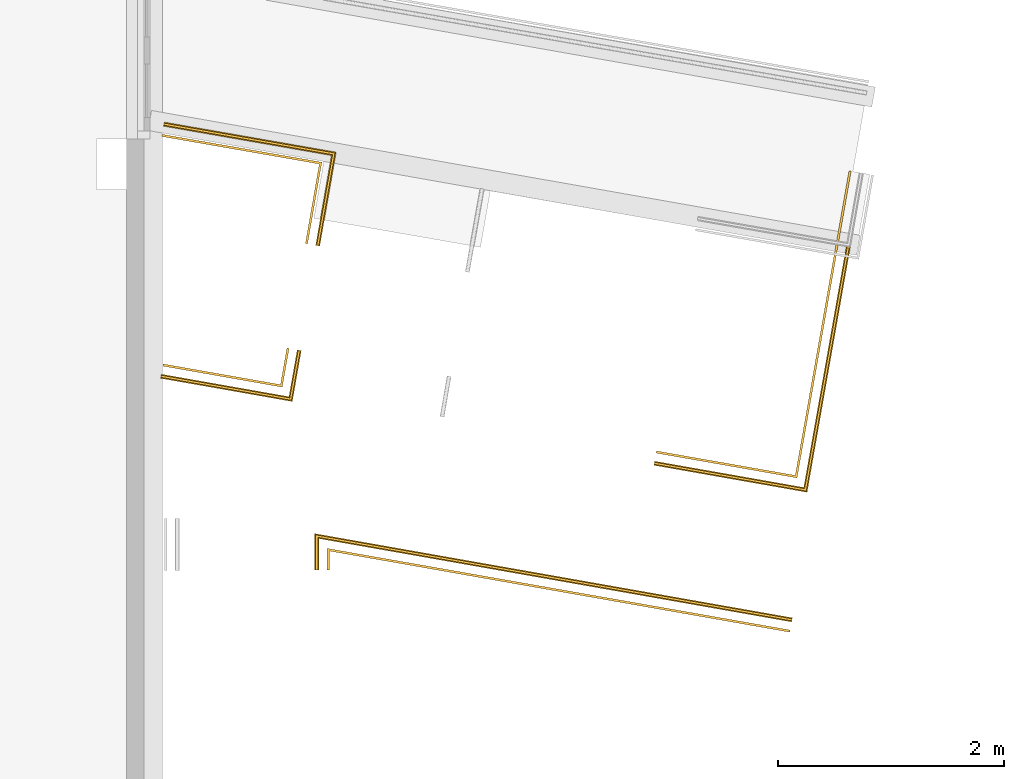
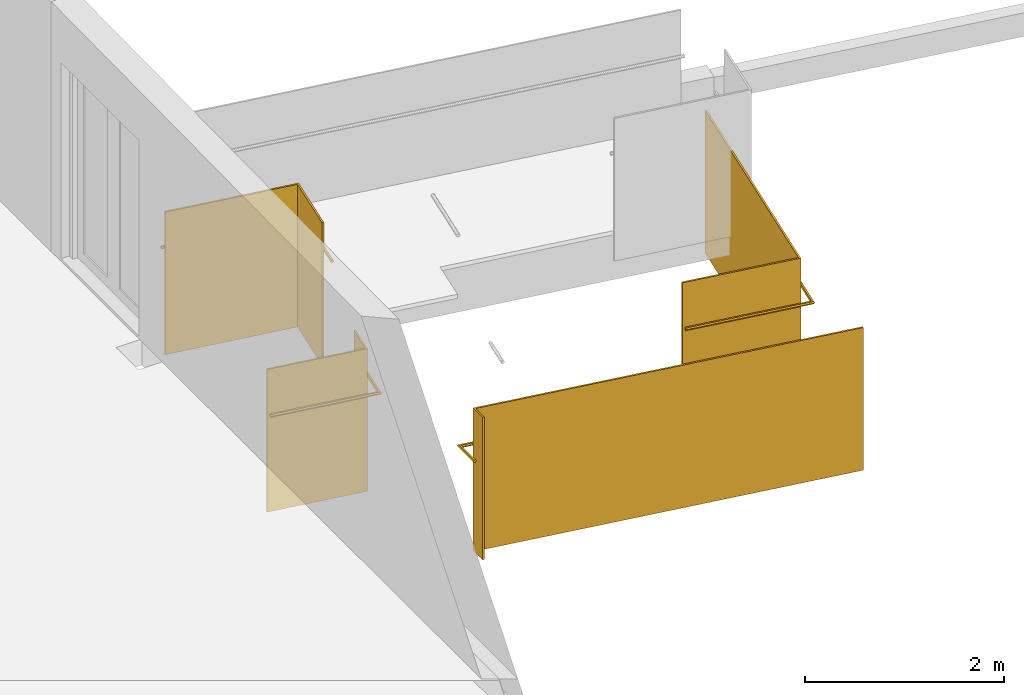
# One storey, part 6 of 9: 4 railings.
"""IFC2X3 building model written with IfcOpenShell, lengths in millimetres."""

import ifcopenshell
import ifcopenshell.guid

model = None  # the IFC model being written
_history = None  # IfcOwnerHistory: only IFC2X3 demands one
_inside = {}  # id of a spatial element -> (the spatial element, [elements in it])
_under = {}  # id of a project, library or spatial element -> (it, [spatial elements below it])
_declared = {}  # id of a project -> (the project, [libraries it declares])
_typed = {}  # id of a type object -> (the type object, [elements of that type])
_made_of = {}  # id of a material, layer set ... -> (it, [elements and type objects made of it])


def new_model(schema):
    """Start an empty IFC model of exactly this schema.

    Asked for "IFC4X3", IfcOpenShell would pick the latest addendum, in which some entities
    have other attributes; the version numbers below select the first issue.
    IFC2X3 requires an IfcOwnerHistory on every rooted entity: one is made here for all.
    """
    global model, _history
    if schema == "IFC4X3":
        model = ifcopenshell.file(schema_version=(4, 3, 0, 0))
    else:
        model = ifcopenshell.file(schema=schema)
    _inside.clear()
    _under.clear()
    _declared.clear()
    _typed.clear()
    _made_of.clear()
    _history = None
    if model.schema == "IFC2X3":
        org = make("IfcOrganization", Name="unknown")
        user = make(
            "IfcPersonAndOrganization",
            ThePerson=make("IfcPerson", FamilyName="unknown"),
            TheOrganization=org,
        )
        app = make(
            "IfcApplication",
            ApplicationDeveloper=org,
            Version="unknown",
            ApplicationFullName="unknown",
            ApplicationIdentifier="unknown",
        )
        _history = make(
            "IfcOwnerHistory",
            OwningUser=user,
            OwningApplication=app,
            ChangeAction="ADDED",
            CreationDate=0,
        )
    return model


def make(cls, **values):
    """One entity of the class cls with the attributes given. An attribute that is None is left unset."""
    return model.create_entity(
        cls, **{name: value for name, value in values.items() if value is not None}
    )


def entity(cls, *values):
    """Any entity or typed value of the class cls, its attributes in the order of the schema. None: left unset."""
    e = model.create_entity(cls)
    for i, value in enumerate(values):
        if value is not None:
            e[i] = value
    return e


def rooted(cls, **values):
    """An entity with a GlobalId (a new one), such as an element, a storey or a relation."""
    return make(cls, GlobalId=ifcopenshell.guid.new(), OwnerHistory=_history, **values)


def si_unit(unit_type, name, prefix=None):
    """IfcSIUnit, for example si_unit("LENGTHUNIT", "METRE", prefix="MILLI")."""
    return make("IfcSIUnit", UnitType=unit_type, Prefix=prefix, Name=name)


def converted_unit(unit_type, name, factor, base, dimensions=None, offset=None):
    """IfcConversionBasedUnit, such as the inch: factor (a typed value) times the base unit."""
    return make(
        "IfcConversionBasedUnit"
        if offset is None
        else "IfcConversionBasedUnitWithOffset",
        ConversionOffset=offset,
        Dimensions=None
        if dimensions is None
        else entity("IfcDimensionalExponents", *dimensions),
        UnitType=unit_type,
        Name=name,
        ConversionFactor=make(
            "IfcMeasureWithUnit", ValueComponent=factor, UnitComponent=base
        ),
    )


def derived_unit(unit_type, elements):
    """IfcDerivedUnit: a product of units, each with its exponent."""
    return make(
        "IfcDerivedUnit",
        Elements=[
            make("IfcDerivedUnitElement", Unit=unit, Exponent=power)
            for unit, power in elements
        ],
        UnitType=unit_type,
    )


def assignment(units):
    """IfcUnitAssignment: the units of a project."""
    return None if units is None else make("IfcUnitAssignment", Units=units)


def point(xyz):
    """IfcCartesianPoint."""
    return None if xyz is None else make("IfcCartesianPoint", Coordinates=xyz)


def direction(xyz):
    """IfcDirection."""
    return None if xyz is None else make("IfcDirection", DirectionRatios=xyz)


def frame(location, z_axis=None, x_axis=None):
    """IfcAxis2Placement3D, a coordinate frame: its origin and axes. An axis left out is left unset."""
    return make(
        "IfcAxis2Placement3D",
        Location=point(location),
        Axis=direction(z_axis),
        RefDirection=direction(x_axis),
    )


def origin():
    """The frame at (0, 0, 0) with its axes left unset."""
    return frame((0.0, 0.0, 0.0))


def place(relative_to, where):
    """IfcLocalPlacement: puts the frame where relative to a parent placement (None: the world)."""
    return make(
        "IfcLocalPlacement", PlacementRelTo=relative_to, RelativePlacement=where
    )


def context(
    kind, dimensions, precision=None, world=None, true_north=None, identifier=None
):
    """IfcGeometricRepresentationContext, for example the 3D "Model" context."""
    return make(
        "IfcGeometricRepresentationContext",
        ContextIdentifier=identifier,
        ContextType=kind,
        CoordinateSpaceDimension=dimensions,
        Precision=precision,
        WorldCoordinateSystem=world,
        TrueNorth=true_north,
    )


def subcontext(parent, identifier, kind, view, scale=None):
    """IfcGeometricRepresentationSubContext, for example "Body" below "Model"."""
    return make(
        "IfcGeometricRepresentationSubContext",
        ContextIdentifier=identifier,
        ContextType=kind,
        ParentContext=parent,
        TargetScale=scale,
        TargetView=view,
    )


def project(units=None, contexts=None):
    """IfcProject with its units and contexts."""
    return rooted(
        "IfcProject",
        Name="project",
        RepresentationContexts=contexts,
        UnitsInContext=assignment(units),
    )


def spatial(cls, under=None, at=None, **own):
    """A site, building, storey or space (cls), placed at a placement, below another one or the project."""
    s = rooted(cls, ObjectPlacement=at, **own)
    if under is not None:
        _under.setdefault(under.id(), (under, []))[1].append(s)
    return s


def faces_of(points, faces, orient=None, outer=None):
    """IfcFace entities. A face is a list of loops; a loop is a list of indices into points, from 0.

    orient and outer hold one flag for each loop. By default every Orientation is true, the
    first loop of a face is its IfcFaceOuterBound and the others are IfcFaceBound.
    """
    made = []
    for i, loops in enumerate(faces):
        bounds = []
        for j, loop in enumerate(loops):
            is_outer = j == 0 if outer is None else outer[i][j]
            bounds.append(
                make(
                    "IfcFaceOuterBound" if is_outer else "IfcFaceBound",
                    Bound=make("IfcPolyLoop", Polygon=[points[k] for k in loop]),
                    Orientation=True if orient is None else orient[i][j],
                )
            )
        made.append(make("IfcFace", Bounds=bounds))
    return made


def faceted_brep(points, faces, orient=None, outer=None, voids=None):
    """IfcFacetedBrep: a solid bounded by flat faces; with voids (closed shells), ...WithVoids."""
    shared = [point(p) for p in points]
    hull = make("IfcClosedShell", CfsFaces=faces_of(shared, faces, orient, outer))
    if voids is None:
        return make("IfcFacetedBrep", Outer=hull)
    return make(
        "IfcFacetedBrepWithVoids",
        Outer=hull,
        Voids=[
            make(cls, CfsFaces=faces_of(shared, fs, o, b)) for cls, fs, o, b in voids
        ],
    )


def shape(context_of_items, identifier, shape_type, items):
    """IfcShapeRepresentation: the items that make up one representation, for example the "Body"."""
    return make(
        "IfcShapeRepresentation",
        ContextOfItems=context_of_items,
        RepresentationIdentifier=identifier,
        RepresentationType=shape_type,
        Items=items,
    )


def material(Name=None, Category=None):
    """IfcMaterial."""
    return make("IfcMaterial", Name=Name, Category=Category)


def made_of(thing, what):
    """Note that an element or type object is made of a material, layer set ...; save() writes the relation."""
    if what is not None:
        _made_of.setdefault(what.id(), (what, []))[1].append(thing)
    return thing


def element(
    cls,
    number,
    at=None,
    inside=None,
    cuts=None,
    type_object=None,
    material=None,
    context=None,
    identifier="Body",
    shape_type=None,
    held_by="IfcProductDefinitionShape",
    body=None,
    shapes=None,
    **own,
):
    """One element of the class cls, such as IfcWall. Its Tag is "e" and its number.

    at: its placement. inside: the storey or other place that contains it. cuts: it is an
    opening in that element (IfcRelVoidsElement). A single representation is given by context,
    identifier, shape_type and body (its items); several are given by shapes. held_by: the class
    of the entity that holds the representations. save() writes the other relations.
    """
    e = rooted(cls, Tag="e%d" % number, ObjectPlacement=at, **own)
    if body is not None:
        shapes = [shape(context, identifier, shape_type, body)]
    if shapes is not None:
        e.Representation = make(held_by, Representations=shapes)
    if inside is not None:
        _inside.setdefault(inside.id(), (inside, []))[1].append(e)
    if cuts is not None:
        rooted(
            "IfcRelVoidsElement", RelatingBuildingElement=cuts, RelatedOpeningElement=e
        )
    if type_object is not None:
        _typed.setdefault(type_object.id(), (type_object, []))[1].append(e)
    return made_of(e, material)


def aggregate(whole, parts):
    """IfcRelAggregates: a whole, such as a stair, and the parts it consists of."""
    return rooted("IfcRelAggregates", RelatingObject=whole, RelatedObjects=parts)


def save(model, path):
    """Write the relations noted so far, then the file.

    IfcRelAggregates (storeys below a building ...), IfcRelContainedInSpatialStructure (elements
    in a storey), IfcRelDefinesByType, IfcRelAssociatesMaterial and IfcRelDeclares: one each for
    every whole, place, type object, material and project.
    """
    for whole, parts in _under.values():
        aggregate(whole, parts)
    for where, things in _inside.values():
        rooted(
            "IfcRelContainedInSpatialStructure",
            RelatedElements=things,
            RelatingStructure=where,
        )
    for kind, things in _typed.values():
        rooted("IfcRelDefinesByType", RelatedObjects=things, RelatingType=kind)
    for what, things in _made_of.values():
        rooted("IfcRelAssociatesMaterial", RelatedObjects=things, RelatingMaterial=what)
    for by, libraries in _declared.values():
        rooted("IfcRelDeclares", RelatingContext=by, RelatedDefinitions=libraries)
    model.write(path)


model = new_model("IFC2X3")

# Units and contexts
model_context = context("Model", 3, precision=0.01, world=origin(), true_north=direction((6.12303176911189e-17, 1.0)))
body_context = subcontext(model_context, "Body", "Model", "MODEL_VIEW")
ifc_project = project(units=[si_unit("LENGTHUNIT", "METRE", prefix="MILLI"), si_unit("AREAUNIT", "SQUARE_METRE"), si_unit("VOLUMEUNIT", "CUBIC_METRE"), converted_unit("PLANEANGLEUNIT", "DEGREE", entity("IfcRatioMeasure", 0.0174532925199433), si_unit("PLANEANGLEUNIT", "RADIAN"), dimensions=[0, 0, 0, 0, 0, 0, 0]), si_unit("MASSUNIT", "GRAM", prefix="KILO"), derived_unit("MASSDENSITYUNIT", [(si_unit("MASSUNIT", "GRAM", prefix="KILO"), 1), (si_unit("LENGTHUNIT", "METRE"), -3)]), si_unit("TIMEUNIT", "SECOND"), si_unit("FREQUENCYUNIT", "HERTZ"), si_unit("THERMODYNAMICTEMPERATUREUNIT", "DEGREE_CELSIUS"), derived_unit("THERMALTRANSMITTANCEUNIT", [(si_unit("MASSUNIT", "GRAM", prefix="KILO"), 1), (si_unit("THERMODYNAMICTEMPERATUREUNIT", "KELVIN"), -1), (si_unit("TIMEUNIT", "SECOND"), -3)]), derived_unit("VOLUMETRICFLOWRATEUNIT", [(si_unit("LENGTHUNIT", "METRE"), 3), (si_unit("TIMEUNIT", "SECOND"), -1)]), si_unit("ELECTRICCURRENTUNIT", "AMPERE"), si_unit("ELECTRICVOLTAGEUNIT", "VOLT"), si_unit("POWERUNIT", "WATT"), si_unit("FORCEUNIT", "NEWTON", prefix="KILO"), si_unit("ILLUMINANCEUNIT", "LUX"), si_unit("LUMINOUSFLUXUNIT", "LUMEN"), si_unit("LUMINOUSINTENSITYUNIT", "CANDELA"), derived_unit("USERDEFINED", [(si_unit("MASSUNIT", "GRAM", prefix="KILO"), -1), (si_unit("LENGTHUNIT", "METRE"), -2), (si_unit("TIMEUNIT", "SECOND"), 3), (si_unit("LUMINOUSFLUXUNIT", "LUMEN"), 1)]), derived_unit("LINEARVELOCITYUNIT", [(si_unit("LENGTHUNIT", "METRE"), 1), (si_unit("TIMEUNIT", "SECOND"), -1)]), si_unit("PRESSUREUNIT", "PASCAL"), derived_unit("USERDEFINED", [(si_unit("LENGTHUNIT", "METRE"), -2), (si_unit("MASSUNIT", "GRAM", prefix="KILO"), 1), (si_unit("TIMEUNIT", "SECOND"), -2)])], contexts=[model_context])

# Site, building, storey
site_placement = place(None, origin())
site = spatial("IfcSite", under=ifc_project, at=site_placement, Name="<Kadaster Gemeente>;<Kadaster nummer>;<Kadaster sectie>", CompositionType="ELEMENT")
building_placement = place(site_placement, origin())
building = spatial("IfcBuilding", under=site, at=building_placement, Name="JRCZ Middelburg", CompositionType="ELEMENT")
storey_placement = place(building_placement, frame((0.0, 0.0, 3700.0)))
storey = spatial("IfcBuildingStorey", under=building, at=storey_placement, Name="02 tweede verdieping", CompositionType="ELEMENT", Elevation=3700.0)

# Railings
ifc_material = material(Name="Glass_RIPO")
railing_1_placement = place(storey_placement, frame((18716.1547277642, 12841.2649647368, -1050.0)))
element("IfcRailing", 1, at=railing_1_placement, inside=storey, material=ifc_material, Name="Railing:RBM_RA_glasbalustrade", ObjectType="Railing:RBM_RA_glasbalustrade", PredefinedType="NOTDEFINED", context=body_context, shape_type="Brep", body=[
    faceted_brep([(131.845272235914, 550.235828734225, 1750.0), (111.845272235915, 550.235828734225, 1750.0), (111.845272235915, 550.235828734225, 0.0), (131.845272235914, 550.235828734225, 0.0), (131.845272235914, 719.695897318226, 1750.0), (131.845272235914, 719.695897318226, 0.0), (111.845272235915, 723.222436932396, 0.0), (111.845272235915, 723.222436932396, 1750.0)], [[[0, 1, 2, 3]], [[4, 5, 6, 7]], [[1, 0, 4, 7]], [[2, 1, 7, 6]], [[3, 2, 6, 5]], [[0, 3, 5, 4]]]),
    faceted_brep([(111.845272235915, 723.222436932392, 1750.0), (111.845272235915, 743.530969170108, 1750.0), (111.845272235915, 743.530969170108, 0.0), (111.845272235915, 723.222436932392, 0.0), (4213.44353035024, 0.0, 1750.0), (4213.44353035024, 0.0, 0.0), (4216.91649390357, 19.6961550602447, 0.0), (4216.91649390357, 19.6961550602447, 1750.0)], [[[0, 1, 2, 3]], [[4, 5, 6, 7]], [[1, 0, 4, 7]], [[2, 1, 7, 6]], [[3, 2, 6, 5]], [[0, 3, 5, 4]]]),
    faceted_brep([(31.9522307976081, 550.235828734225, 1231.93865882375), (33.7341893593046, 550.235828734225, 1235.02510158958), (36.7147307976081, 550.235828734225, 1240.18755079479), (39.6952722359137, 550.235828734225, 1245.35), (36.7147307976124, 550.235828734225, 1250.5124492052), (34.9327722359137, 550.235828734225, 1253.59889197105), (32.5515222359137, 550.235828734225, 1257.72333795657), (30.1702722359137, 550.235828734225, 1261.84778394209), (25.4077722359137, 550.235828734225, 1261.84778394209), (20.6452722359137, 550.235828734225, 1261.84778394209), (15.8827722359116, 550.235828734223, 1261.84778394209), (11.1202722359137, 550.235828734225, 1261.84778394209), (8.7390222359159, 550.235828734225, 1257.72333795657), (6.35777223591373, 550.235828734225, 1253.59889197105), (3.97652223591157, 550.235828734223, 1249.47444598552), (1.59527223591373, 550.235828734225, 1245.35), (3.97652223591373, 550.235828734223, 1241.22555401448), (6.35777223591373, 550.235828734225, 1237.10110802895), (8.73902223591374, 550.235828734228, 1232.97666204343), (11.1202722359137, 550.235828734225, 1228.85221605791), (15.8827722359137, 550.235828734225, 1228.85221605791), (20.6452722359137, 550.235828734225, 1228.85221605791), (25.4077722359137, 550.235828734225, 1228.85221605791), (30.1702722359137, 550.235828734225, 1228.85221605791), (39.6952722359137, 829.515990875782, 1245.35), (37.3140222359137, 832.353854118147, 1249.47444598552), (34.9327722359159, 835.191717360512, 1253.59889197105), (32.5515222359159, 838.029580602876, 1257.72333795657), (30.1702722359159, 840.867443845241, 1261.84778394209), (15.8827722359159, 857.894623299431, 1261.84778394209), (11.1202722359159, 863.57034978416, 1261.84778394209), (20.6452722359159, 852.218896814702, 1261.84778394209), (4234.40720659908, 118.890915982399, 1261.84778394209), (4233.58020715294, 114.200769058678, 1261.84778394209), (4232.7532077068, 109.510622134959, 1261.84778394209), (25.4077722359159, 846.54317032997, 1261.84778394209), (4231.92620826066, 104.820475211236, 1261.84778394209), (4231.09920881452, 100.130328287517, 1261.84778394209), (9.33811130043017, 865.694246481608, 1258.76099065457), (8.7390222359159, 866.408213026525, 1257.72333795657), (7.55595036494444, 867.818143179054, 1255.67419736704), (6.3577722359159, 869.246076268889, 1253.59889197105), (4.57561130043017, 871.369972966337, 1250.51209868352), (3.39580623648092, 872.776009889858, 1248.46861636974), (1.59527223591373, 874.921802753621, 1245.35), (32.5515222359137, 838.029580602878, 1232.97666204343), (34.9327722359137, 835.191717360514, 1237.10110802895), (36.714933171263, 833.067820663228, 1240.18790131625), (37.3140222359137, 832.353854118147, 1241.22555401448), (30.1702722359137, 840.867443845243, 1228.85221605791), (3.39580623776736, 872.776009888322, 1242.23138362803), (4.57561133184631, 871.369972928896, 1240.18790126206), (5.19634023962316, 870.630217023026, 1239.11276725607), (6.35777223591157, 869.246076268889, 1237.10110802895), (8.15830623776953, 867.100283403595, 1233.98249165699), (8.73902223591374, 866.408213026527, 1232.97666204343), (11.1202722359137, 863.570349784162, 1228.85221605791), (15.8827722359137, 857.894623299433, 1228.85221605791), (4234.40720659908, 118.890915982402, 1228.85221605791), (4233.58020715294, 114.20076905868, 1228.85221605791), (20.6452722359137, 852.218896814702, 1228.85221605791), (4232.7532077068, 109.510622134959, 1228.85221605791), (25.4077722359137, 846.543170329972, 1228.85221605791), (4231.92620826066, 104.82047521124, 1228.85221605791), (4231.09920881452, 100.130328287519, 1228.85221605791), (4229.44520992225, 90.7500344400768, 1245.35), (4229.75786949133, 92.5232149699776, 1242.23138242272), (4230.27220936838, 95.440181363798, 1237.10110802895), (4230.68570909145, 97.7852548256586, 1232.97666204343), (4234.82070632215, 121.235989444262, 1232.97666204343), (4235.23420604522, 123.581062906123, 1237.10110802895), (4235.64770576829, 125.926136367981, 1241.22555401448), (4236.06120549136, 128.271209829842, 1245.35), (4235.64770576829, 125.926136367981, 1249.47444598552), (4235.23420604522, 123.581062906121, 1253.59889197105), (4234.82070632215, 121.23598944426, 1257.72333795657), (4230.58486893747, 97.2133618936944, 1256.71750954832), (4230.07052906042, 94.2963954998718, 1251.58723515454), (4229.75786949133, 92.5232149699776, 1248.46861757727)], [[[0, 1, 2, 3, 4, 5, 6, 7, 8, 9, 10, 11, 12, 13, 14, 15, 16, 17, 18, 19, 20, 21, 22, 23]], [[7, 6, 5, 4, 3, 24, 25, 26, 27, 28]], [[29, 11, 10]], [[30, 11, 29]], [[31, 29, 10]], [[29, 32, 30]], [[32, 29, 33]], [[29, 31, 33]], [[34, 33, 31]], [[9, 31, 10]], [[9, 35, 31]], [[35, 9, 8]], [[8, 28, 35]], [[8, 7, 28]], [[35, 28, 36]], [[28, 37, 36]], [[34, 35, 36]], [[35, 34, 31]], [[11, 30, 38, 39, 40, 41, 42, 43, 44, 15, 14, 13, 12]], [[45, 46, 47, 48, 24, 3, 2, 1, 0, 23, 49]], [[17, 16, 15, 44, 50, 51, 52, 53, 54, 55, 56, 19, 18]], [[19, 57, 20]], [[19, 56, 57]], [[58, 57, 56]], [[57, 58, 59]], [[59, 60, 57]], [[59, 61, 60]], [[60, 61, 62]], [[61, 63, 62]], [[63, 49, 62]], [[64, 49, 63]], [[49, 22, 62]], [[49, 23, 22]], [[22, 21, 62]], [[60, 62, 21]], [[21, 20, 60]], [[60, 20, 57]], [[65, 66, 67, 68, 64, 63, 61, 59, 58, 69, 70, 71, 72, 73, 74, 75, 32, 33, 34, 36, 37, 76, 77, 78]], [[24, 65, 78, 77, 76, 37, 28, 27, 26, 25]], [[72, 44, 43, 42, 41, 40, 39, 38, 30, 32, 75, 74, 73]], [[56, 55, 54, 53, 52, 51, 50, 44, 72, 71, 70, 69, 58]], [[66, 65, 24, 48, 47, 46, 45, 49, 64, 68, 67]]]),
])
railing_2_placement = place(storey_placement, frame((17350.3708967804, 14883.9048724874, -1050.0)))
element("IfcRailing", 2, at=railing_2_placement, inside=storey, material=ifc_material, Name="Railing:RBM_RA_glasbalustrade", ObjectType="Railing:RBM_RA_glasbalustrade", PredefinedType="NOTDEFINED", context=body_context, shape_type="Brep", body=[
    faceted_brep([(1121.30675135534, 476.833817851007, 1750.0), (1141.00349798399, 473.364210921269, 1750.0), (1141.00349798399, 473.364210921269, 0.0), (1121.30675135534, 476.833817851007, 0.0), (1064.17134223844, 152.479589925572, 1750.0), (1080.39811840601, 129.311172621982, 1750.0), (1080.39811840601, 129.311172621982, 0.0), (1064.17134223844, 152.479589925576, 0.0), (24.2045266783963, 335.783405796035, 1750.0), (24.2045266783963, 335.783405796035, 0.0), (20.732856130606, 316.087022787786, 0.0), (20.732856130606, 316.087022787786, 1750.0)], [[[0, 1, 2, 3]], [[1, 0, 4, 5]], [[2, 1, 5, 6]], [[3, 2, 6, 7]], [[0, 3, 7, 4]], [[8, 9, 10, 11]], [[5, 4, 8, 11]], [[6, 5, 11, 10]], [[7, 6, 10, 9]], [[4, 7, 9, 8]]]),
    faceted_brep([(1240.20123819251, 455.890403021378, 1228.85221605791), (1235.51095040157, 456.716603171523, 1228.85221605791), (1230.82066261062, 457.542803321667, 1228.85221605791), (1226.13037481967, 458.369003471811, 1228.85221605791), (1221.44008702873, 459.195203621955, 1228.85221605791), (1218.82343344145, 459.656130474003, 1233.45417093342), (1216.20677985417, 460.117057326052, 1238.05612580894), (1214.1331456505, 460.482330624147, 1241.70306290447), (1212.05951144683, 460.847603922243, 1245.35), (1214.1331456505, 460.48233062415, 1248.99693709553), (1216.74979923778, 460.021403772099, 1253.59889197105), (1219.09494313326, 459.608303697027, 1257.72333795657), (1221.44008702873, 459.195203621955, 1261.84778394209), (1226.13037481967, 458.369003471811, 1261.84778394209), (1230.82066261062, 457.542803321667, 1261.84778394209), (1235.51095040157, 456.71660317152, 1261.84778394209), (1240.20123819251, 455.890403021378, 1261.84778394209), (1242.54638208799, 455.477302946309, 1257.72333795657), (1244.89152598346, 455.064202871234, 1253.59889197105), (1247.23666987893, 454.651102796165, 1249.47444598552), (1249.58181377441, 454.23800272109, 1245.35), (1247.23666987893, 454.651102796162, 1241.22555401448), (1244.89152598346, 455.064202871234, 1237.10110802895), (1242.54638208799, 455.477302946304, 1232.97666204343), (1138.93621343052, 45.7311071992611, 1245.35), (1140.2599725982, 43.8410580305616, 1248.17596877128), (1140.86821396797, 42.9726175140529, 1249.47444598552), (1141.58373176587, 41.9510088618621, 1251.00193754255), (1142.80021450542, 40.2141278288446, 1253.59889197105), (1144.73221504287, 37.4556381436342, 1257.72333795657), (1146.66421558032, 34.6971484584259, 1261.84778394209), (1154.39221773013, 23.6631897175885, 1261.84778394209), (1150.52821665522, 29.1801690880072, 1261.84778394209), (5.72872998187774, 230.961717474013, 1261.84778394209), (6.55542153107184, 235.651918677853, 1261.84778394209), (4.90203843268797, 226.271516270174, 1261.84778394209), (4.07534688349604, 221.581315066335, 1261.84778394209), (1158.25621880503, 18.1462103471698, 1261.84778394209), (3.24865533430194, 216.891113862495, 1261.84778394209), (1162.12021987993, 12.6292309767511, 1261.84778394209), (1164.05222041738, 9.87074129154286, 1257.72333795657), (1164.27593908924, 9.55131816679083, 1257.24574203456), (1165.98422095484, 7.11225160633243, 1253.59889197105), (1166.43165829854, 6.47340535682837, 1252.64370012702), (1167.20070369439, 5.37537057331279, 1251.00193754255), (1168.13994016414, 4.0343387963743, 1248.99685006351), (1168.52446286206, 3.48532140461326, 1248.17596877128), (1169.84822202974, 1.59527223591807, 1245.35), (1168.52446285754, 3.48532141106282, 1242.52403121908), (1168.1399401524, 4.03433881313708, 1241.70314991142), (1167.20070368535, 5.37537058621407, 1239.69806243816), (1165.98422095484, 7.11225160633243, 1237.10110802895), (1165.87694451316, 7.26541976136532, 1236.87209365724), (1164.55318534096, 9.1554689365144, 1234.04612487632), (1164.05222041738, 9.87074129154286, 1232.97666204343), (1162.12021987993, 12.6292309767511, 1228.85221605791), (1146.66421558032, 34.6971484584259, 1228.85221605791), (1144.73221504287, 37.4556381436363, 1232.97666204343), (1142.80021450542, 40.2141278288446, 1237.10110802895), (1140.86821396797, 42.972617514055, 1241.22555401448), (1158.25621880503, 18.146210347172, 1228.85221605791), (1154.39221773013, 23.6631897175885, 1228.85221605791), (4.07534688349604, 221.581315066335, 1228.85221605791), (3.24865533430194, 216.891113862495, 1228.85221605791), (4.90203843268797, 226.271516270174, 1228.85221605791), (1150.52821665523, 29.1801690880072, 1228.85221605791), (5.72872998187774, 230.961717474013, 1228.85221605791), (6.55542153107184, 235.651918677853, 1228.85221605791), (8.20880462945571, 245.03232108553, 1245.35), (7.92558927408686, 243.425510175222, 1242.52402110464), (7.642373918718, 241.818699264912, 1239.69804220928), (7.38211308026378, 240.342119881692, 1237.10110802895), (6.96876730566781, 237.997019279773, 1232.97666204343), (2.83530955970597, 214.546013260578, 1232.97666204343), (2.42196378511, 212.200912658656, 1237.10110802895), (2.0086180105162, 209.855812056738, 1241.22555401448), (1.59527223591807, 207.510711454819, 1245.35), (2.00861801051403, 209.855812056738, 1249.47444598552), (2.42196378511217, 212.200912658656, 1253.59889197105), (2.83530955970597, 214.546013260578, 1257.72333795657), (7.07594320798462, 238.605077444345, 1256.65391558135), (7.35915856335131, 240.211888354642, 1253.82793668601), (7.642373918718, 241.818699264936, 1251.00195779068), (7.92558927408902, 243.425510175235, 1248.17597889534)], [[[0, 1, 2, 3, 4, 5, 6, 7, 8, 9, 10, 11, 12, 13, 14, 15, 16, 17, 18, 19, 20, 21, 22, 23]], [[12, 11, 10, 9, 8, 24, 25, 26, 27, 28, 29, 30]], [[14, 31, 15]], [[14, 32, 31]], [[32, 14, 13]], [[13, 30, 32]], [[13, 12, 30]], [[30, 33, 32]], [[30, 34, 33]], [[33, 35, 32]], [[31, 32, 35]], [[35, 36, 31]], [[31, 36, 37]], [[36, 38, 37]], [[38, 39, 37]], [[39, 16, 37]], [[37, 16, 15]], [[31, 37, 15]], [[17, 16, 39, 40, 41, 42, 43, 44, 45, 46, 47, 20, 19, 18]], [[21, 20, 47, 48, 49, 50, 51, 52, 53, 54, 55, 0, 23, 22]], [[24, 8, 7, 6, 5, 4, 56, 57, 58, 59]], [[60, 0, 55]], [[0, 60, 1]], [[60, 61, 1]], [[62, 61, 60]], [[60, 63, 62]], [[60, 55, 63]], [[61, 62, 64]], [[61, 64, 65]], [[64, 66, 65]], [[66, 56, 65]], [[67, 56, 66]], [[56, 3, 65]], [[4, 3, 56]], [[65, 3, 2]], [[2, 61, 65]], [[2, 1, 61]], [[68, 69, 70, 71, 72, 67, 66, 64, 62, 63, 73, 74, 75, 76, 77, 78, 79, 38, 36, 35, 33, 34, 80, 81, 82, 83]], [[27, 26, 25, 24, 68, 83, 82, 81, 80, 34, 30, 29, 28]], [[77, 76, 47, 46, 45, 44, 43, 42, 41, 40, 39, 38, 79, 78]], [[55, 54, 53, 52, 51, 50, 49, 48, 47, 76, 75, 74, 73, 63]], [[58, 57, 56, 67, 72, 71, 70, 69, 68, 24, 59]]]),
])
railing_3_placement = place(storey_placement, frame((17362.4732024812, 16262.7785891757, -350.0)))
element("IfcRailing", 3, at=railing_3_placement, inside=storey, material=ifc_material, Name="Railing:RBM_RA_glasbalustrade", ObjectType="Railing:RBM_RA_glasbalustrade", PredefinedType="NOTDEFINED", context=body_context, shape_type="Brep", body=[
    faceted_brep([(0.0, 972.385125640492, 1750.0), (3.4438842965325, 992.086386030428, 1750.0), (3.4438842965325, 992.086386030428, 0.0), (0.0, 972.385125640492, 0.0), (1396.07625684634, 728.34362765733, 1750.0), (1419.22140153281, 744.60100375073, 1750.0), (1419.22140153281, 744.601003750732, 0.0), (1396.07625684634, 728.343627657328, 0.0), (1272.95739324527, 24.0235687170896, 1750.0), (1272.95739324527, 24.0235687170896, 0.0), (1292.6586536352, 20.579684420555, 0.0), (1292.6586536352, 20.579684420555, 1750.0)], [[[0, 1, 2, 3]], [[1, 0, 4, 5]], [[2, 1, 5, 6]], [[3, 2, 6, 7]], [[0, 3, 7, 4]], [[8, 9, 10, 11]], [[5, 4, 8, 11]], [[6, 5, 11, 10]], [[7, 6, 10, 9]], [[4, 7, 9, 8]]]),
    faceted_brep([(18.3279217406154, 1077.23277077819, 1261.84778394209), (19.1479966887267, 1081.92413340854, 1261.84778394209), (19.9680716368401, 1086.61549603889, 1261.84778394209), (20.7881465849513, 1091.30685866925, 1261.84778394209), (21.198184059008, 1093.65253998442, 1257.72333795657), (21.6082215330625, 1095.9982212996, 1253.59889197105), (21.9975638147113, 1098.22551264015, 1249.68261282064), (22.4282964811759, 1100.68958392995, 1245.35), (22.0182590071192, 1098.34390261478, 1241.22555401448), (21.6082215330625, 1095.9982212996, 1237.10110802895), (21.1981840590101, 1093.65253998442, 1232.97666204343), (20.7881465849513, 1091.30685866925, 1228.85221605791), (19.9680716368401, 1086.61549603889, 1228.85221605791), (19.1479966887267, 1081.92413340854, 1228.85221605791), (18.3279217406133, 1077.23277077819, 1228.85221605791), (17.507846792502, 1072.54140814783, 1228.85221605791), (17.0978093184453, 1070.19572683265, 1232.97666204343), (16.6877718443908, 1067.85004551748, 1237.10110802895), (16.2984295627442, 1065.62275417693, 1241.01738717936), (15.8676968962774, 1063.15868288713, 1245.35), (16.2984295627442, 1065.62275417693, 1249.68261282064), (16.7291622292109, 1068.08682546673, 1254.01522564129), (17.1185045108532, 1070.31411680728, 1257.93150479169), (17.507846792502, 1072.54140814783, 1261.84778394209), (1530.27469888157, 822.605926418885, 1261.84778394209), (1535.78613646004, 826.477214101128, 1261.84778394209), (1524.76326130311, 818.734638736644, 1261.84778394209), (1391.87912627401, 3.23542213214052, 1261.84778394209), (1387.18776364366, 4.05549708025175, 1261.84778394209), (1382.4964010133, 4.87557202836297, 1261.84778394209), (1519.25182372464, 814.863351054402, 1261.84778394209), (1513.74038614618, 810.992063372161, 1261.84778394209), (1377.80503838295, 5.6956469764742, 1261.84778394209), (1373.1136757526, 6.51572192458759, 1261.84778394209), (1508.22894856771, 807.120775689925, 1253.59889197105), (1510.98466735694, 809.056419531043, 1257.72333795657), (1502.71751098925, 803.249488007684, 1245.35), (1505.47322977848, 805.185131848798, 1249.47444598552), (1505.61230885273, 805.282822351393, 1249.68260370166), (1538.40277617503, 828.315167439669, 1257.9314956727), (1538.54185524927, 828.412857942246, 1257.72333795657), (1541.01941589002, 830.15312077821, 1254.0152074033), (1541.29757403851, 830.348501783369, 1253.59889197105), (1543.9142137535, 832.186455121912, 1249.68260370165), (1544.159106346, 832.358470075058, 1249.31607636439), (1546.80901161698, 834.219789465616, 1245.35), (1513.74038614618, 810.992063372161, 1228.85221605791), (1519.25182372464, 814.863351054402, 1228.85221605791), (1377.80503838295, 5.69564697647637, 1228.85221605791), (1373.1136757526, 6.51572192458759, 1228.85221605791), (1524.76326130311, 818.734638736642, 1228.85221605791), (1530.27469888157, 822.605926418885, 1228.85221605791), (1535.78613646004, 826.477214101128, 1228.8522160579), (1391.87912627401, 3.23542213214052, 1228.85221605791), (1387.18776364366, 4.05549708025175, 1228.85221605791), (1382.4964010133, 4.87557202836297, 1228.85221605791), (1510.98466735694, 809.056419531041, 1232.97666204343), (1508.22894856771, 807.12077568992, 1237.10110802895), (1505.47322977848, 805.185131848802, 1241.22555401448), (1544.1591063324, 832.358470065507, 1241.38392361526), (1543.91421374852, 832.186455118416, 1241.0173962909), (1541.29757403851, 830.348501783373, 1237.10110802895), (1538.54185524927, 828.412857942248, 1232.97666204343), (1401.26185153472, 1.5952722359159, 1245.35), (1398.91617021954, 2.0053097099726, 1249.47444598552), (1396.57048890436, 2.41534718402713, 1253.59889197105), (1394.22480758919, 2.82538465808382, 1257.72333795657), (1370.67794136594, 6.94150115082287, 1257.56499631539), (1368.24220697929, 7.36728037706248, 1253.28220868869), (1365.98657873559, 7.76157609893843, 1249.31610434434), (1363.73095049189, 8.15587182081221, 1245.35), (1365.98657873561, 7.76157609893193, 1241.38389565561), (1368.42231312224, 7.33579687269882, 1237.10110802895), (1370.76799443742, 6.92575939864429, 1232.97666204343), (1394.22480758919, 2.82538465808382, 1232.97666204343), (1396.57048890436, 2.41534718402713, 1237.10110802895), (1398.91617021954, 2.0053097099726, 1241.22555401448)], [[[0, 1, 2, 3, 4, 5, 6, 7, 8, 9, 10, 11, 12, 13, 14, 15, 16, 17, 18, 19, 20, 21, 22, 23]], [[24, 3, 2]], [[25, 3, 24]], [[26, 24, 2]], [[24, 27, 25]], [[27, 24, 28]], [[24, 26, 28]], [[29, 28, 26]], [[1, 26, 2]], [[1, 30, 26]], [[30, 1, 0]], [[0, 31, 30]], [[0, 23, 31]], [[31, 32, 30]], [[33, 32, 31]], [[30, 32, 29]], [[29, 26, 30]], [[34, 35, 31, 23, 22, 21, 20, 19, 36, 37, 38]], [[5, 4, 3, 25, 39, 40, 41, 42, 43, 44, 45, 7, 6]], [[46, 14, 47]], [[46, 15, 14]], [[48, 46, 47]], [[48, 49, 46]], [[13, 47, 14]], [[50, 47, 13]], [[13, 12, 50]], [[50, 12, 51]], [[11, 51, 12]], [[11, 52, 51]], [[52, 53, 51]], [[51, 53, 54]], [[51, 54, 50]], [[55, 50, 54]], [[55, 47, 50]], [[47, 55, 48]], [[36, 19, 18, 17, 16, 15, 46, 56, 57, 58]], [[52, 11, 10, 9, 8, 7, 45, 59, 60, 61, 62]], [[63, 64, 65, 66, 27, 28, 29, 32, 33, 67, 68, 69, 70, 71, 72, 73, 49, 48, 55, 54, 53, 74, 75, 76]], [[68, 67, 33, 31, 35, 34, 38, 37, 36, 70, 69]], [[63, 45, 44, 43, 42, 41, 40, 39, 25, 27, 66, 65, 64]], [[75, 74, 53, 52, 62, 61, 60, 59, 45, 63, 76]], [[70, 36, 58, 57, 56, 46, 49, 73, 72, 71]]]),
])
railing_4_placement = place(storey_placement, frame((21723.5836441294, 14079.3738076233, -1050.0)))
element("IfcRailing", 4, at=railing_4_placement, inside=storey, material=ifc_material, Name="Railing:RBM_RA_glasbalustrade", ObjectType="Railing:RBM_RA_glasbalustrade", PredefinedType="NOTDEFINED", context=body_context, shape_type="Brep", body=[
    faceted_brep([(24.2045266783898, 369.232550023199, 1750.0), (24.2045266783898, 369.232550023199, 0.0), (20.7328561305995, 349.53616701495, 0.0), (20.7328561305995, 349.53616701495, 1750.0), (1270.18899447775, 129.30791117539, 1750.0), (1253.96557498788, 152.475736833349, 1750.0), (1270.18899447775, 129.307911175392, 0.0), (1253.96557498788, 152.475736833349, 0.0), (1729.97255177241, 2852.04545028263, 1750.0), (1749.66870683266, 2848.5724867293, 1750.0), (1749.66870683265, 2848.5724867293, 0.0), (1729.97255177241, 2852.04545028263, 0.0)], [[[0, 1, 2, 3]], [[0, 3, 4, 5]], [[3, 2, 6, 4]], [[2, 1, 7, 6]], [[1, 0, 5, 7]], [[8, 9, 10, 11]], [[7, 5, 8, 11]], [[6, 7, 11, 10]], [[4, 6, 10, 9]], [[5, 4, 9, 8]]]),
    faceted_brep([(8.20880462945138, 278.481465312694, 1245.35), (7.72152774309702, 275.716919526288, 1240.48785474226), (7.23425085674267, 272.952373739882, 1235.62570948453), (6.89483619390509, 271.026718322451, 1232.23896277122), (6.55542153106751, 269.101062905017, 1228.85221605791), (5.72872998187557, 264.410861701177, 1228.85221605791), (4.90203843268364, 259.720660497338, 1228.85221605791), (4.0753468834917, 255.030459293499, 1228.85221605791), (3.24865533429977, 250.340258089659, 1228.85221605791), (2.83530955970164, 247.995157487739, 1232.97666204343), (2.42196378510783, 245.65005688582, 1237.10110802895), (2.08254912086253, 243.724401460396, 1240.48785475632), (1.5952722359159, 240.959855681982, 1245.35), (2.00861801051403, 243.3049562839, 1249.47444598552), (2.42196378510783, 245.65005688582, 1253.59889197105), (2.83530955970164, 247.995157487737, 1257.72333795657), (3.24865533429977, 250.340258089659, 1261.84778394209), (4.0753468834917, 255.030459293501, 1261.84778394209), (4.90203843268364, 259.720660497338, 1261.84778394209), (5.72872998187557, 264.410861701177, 1261.84778394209), (6.55542153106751, 269.101062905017, 1261.84778394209), (6.96876730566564, 271.446163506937, 1257.72333795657), (7.38211308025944, 273.791264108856, 1253.59889197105), (7.72152774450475, 275.71691953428, 1250.21214524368), (1359.62059441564, 1.5952722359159, 1245.35), (1357.43354501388, 4.7184842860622, 1250.01989180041), (1357.34351303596, 4.84705429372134, 1250.21213235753), (1355.75739264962, 7.11211072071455, 1253.59889197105), (1355.24649561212, 7.84169633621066, 1254.68978360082), (1353.82579176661, 9.87052996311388, 1257.72333795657), (1353.57034324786, 10.2353227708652, 1258.26878377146), (1351.8941908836, 12.6289492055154, 1261.84778394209), (1336.4413838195, 34.6963031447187, 1261.84778394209), (1334.50978293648, 37.4547223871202, 1257.72333795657), (1332.57818205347, 40.2131416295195, 1253.59889197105), (1330.64658117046, 42.971560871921, 1249.47444598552), (1328.71498028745, 45.7299801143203, 1245.35), (1340.30458558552, 29.1794646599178, 1261.84778394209), (1344.16778735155, 23.662626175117, 1261.84778394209), (1348.03098911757, 18.1457876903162, 1261.84778394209), (1848.86346775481, 2831.08177403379, 1261.84778394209), (1844.17332083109, 2831.90877347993, 1261.84778394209), (1839.48317390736, 2832.73577292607, 1261.84778394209), (1834.79302698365, 2833.56277237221, 1261.84778394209), (1830.10288005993, 2834.38977181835, 1261.84778394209), (1348.03098911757, 18.1457876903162, 1228.85221605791), (1351.8941908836, 12.6289492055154, 1228.85221605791), (1344.16778735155, 23.662626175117, 1228.85221605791), (1848.86346775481, 2831.08177403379, 1228.85221605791), (1844.17332083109, 2831.90877347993, 1228.85221605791), (1839.48317390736, 2832.73577292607, 1228.85221605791), (1340.30458558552, 29.1794646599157, 1228.85221605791), (1336.4413838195, 34.6963031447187, 1228.85221605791), (1834.79302698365, 2833.56277237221, 1228.85221605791), (1830.10288005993, 2834.38977181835, 1228.85221605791), (1332.57818205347, 40.2131416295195, 1237.10110802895), (1334.50978293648, 37.4547223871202, 1232.97666204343), (1330.90202969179, 42.6067680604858, 1240.68010819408), (1330.99206167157, 42.4781980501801, 1240.487867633), (1353.48031126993, 10.3638927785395, 1232.23897567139), (1353.82579176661, 9.87052996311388, 1232.97666204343), (1355.06643165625, 8.09883635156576, 1235.62573528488), (1355.75739264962, 7.11211072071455, 1237.10110802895), (1357.34351303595, 4.84705429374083, 1240.48786764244), (1357.43354501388, 4.7184842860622, 1240.68010819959), (1823.37779034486, 2835.5755865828, 1250.01989465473), (1825.41273313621, 2835.21677126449, 1253.59889197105), (1827.75780659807, 2834.80327154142, 1257.72333795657), (1851.20854121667, 2830.66827431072, 1257.72333795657), (1853.55361467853, 2830.25477458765, 1253.59889197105), (1855.58855746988, 2829.89595926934, 1250.01989465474), (1858.24376160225, 2829.42777514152, 1245.35), (1855.89868814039, 2829.84127486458, 1241.22555401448), (1853.55361467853, 2830.25477458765, 1237.10110802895), (1851.20854121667, 2830.66827431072, 1232.97666204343), (1828.06793727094, 2834.74858713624, 1232.43121337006), (1826.03299448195, 2835.10740245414, 1236.01021068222), (1823.37779034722, 2835.57558658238, 1240.68010534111), (1820.72258621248, 2836.04377071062, 1245.35)], [[[0, 1, 2, 3, 4, 5, 6, 7, 8, 9, 10, 11, 12, 13, 14, 15, 16, 17, 18, 19, 20, 21, 22, 23]], [[24, 25, 26, 27, 28, 29, 30, 31, 16, 15, 14, 13, 12]], [[22, 21, 20, 32, 33, 34, 35, 36, 0, 23]], [[18, 37, 19]], [[38, 37, 18]], [[18, 17, 38]], [[38, 17, 39]], [[16, 39, 17]], [[16, 31, 39]], [[40, 39, 31]], [[39, 40, 41]], [[41, 38, 39]], [[41, 42, 38]], [[38, 42, 37]], [[42, 43, 37]], [[43, 32, 37]], [[44, 32, 43]], [[32, 20, 19]], [[32, 19, 37]], [[45, 8, 7]], [[46, 8, 45]], [[47, 45, 7]], [[45, 48, 46]], [[48, 45, 49]], [[45, 47, 49]], [[50, 49, 47]], [[6, 47, 7]], [[6, 51, 47]], [[51, 6, 5]], [[5, 52, 51]], [[5, 4, 52]], [[51, 52, 53]], [[52, 54, 53]], [[50, 51, 53]], [[51, 50, 47]], [[55, 56, 52, 4, 3, 2, 1, 0, 36, 57, 58]], [[12, 11, 10, 9, 8, 46, 59, 60, 61, 62, 63, 64, 24]], [[65, 66, 67, 44, 43, 42, 41, 40, 68, 69, 70, 71, 72, 73, 74, 48, 49, 50, 53, 54, 75, 76, 77, 78]], [[34, 33, 32, 44, 67, 66, 65, 78, 36, 35]], [[69, 68, 40, 31, 30, 29, 28, 27, 26, 25, 24, 71, 70]], [[76, 75, 54, 52, 56, 55, 58, 57, 36, 78, 77]], [[74, 73, 72, 71, 24, 64, 63, 62, 61, 60, 59, 46, 48]]]),
])

save(model, "model.ifc")
